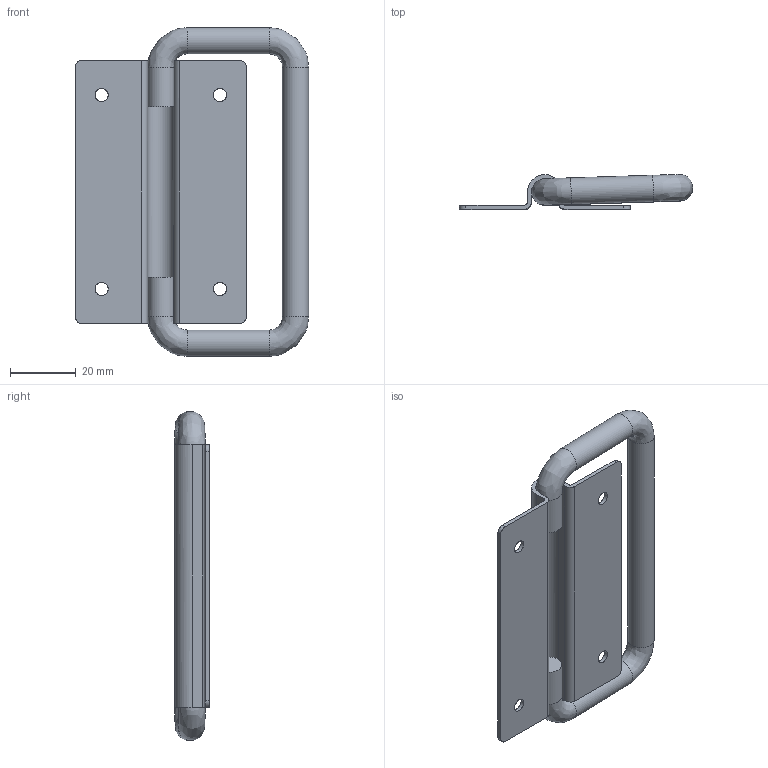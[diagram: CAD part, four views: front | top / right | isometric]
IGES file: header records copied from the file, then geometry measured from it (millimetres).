
Global section: file name: DR_A-FT1-2; native system: Autodesk Inventor 2015; preprocessor: unknown; author: CH.J; date: 20180809.170834; units: millimetre
Bounding box: 70.98 x 10.56 x 99.98 mm (x, y, z)
Volume: 16690.2 mm3; surface area: 15884.8 mm2
Topology: 2 solids, 2 shells, 37 faces, 103 edges, 70 vertices
Faces by surface type: bspline 37
